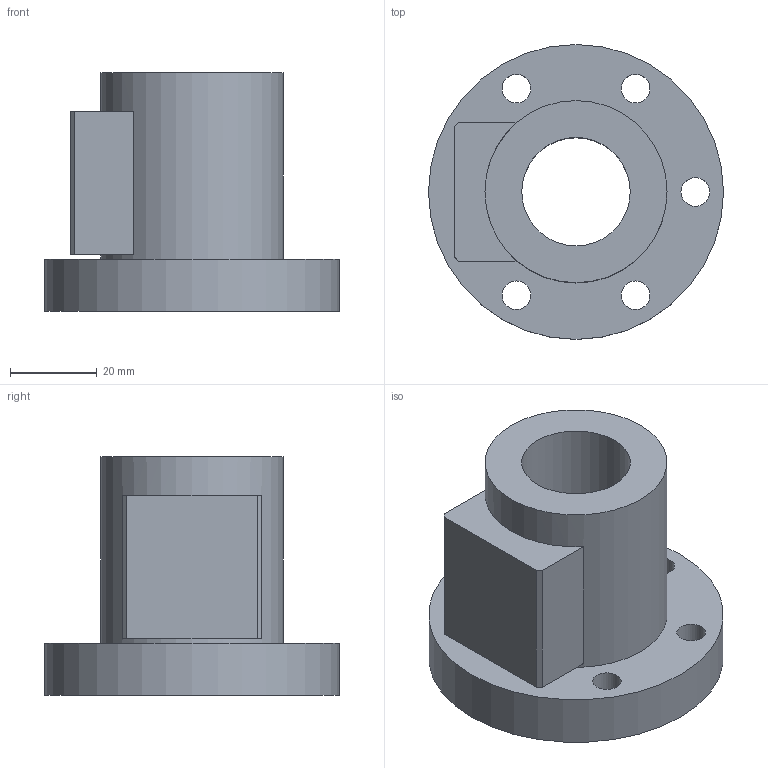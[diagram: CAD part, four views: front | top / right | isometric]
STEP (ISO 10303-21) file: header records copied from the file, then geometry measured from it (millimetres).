
FILE_DESCRIPTION(/* description */ (''),/* implementation_level */ '2;1');
FILE_NAME(/* name */ '25-6C1',/* time_stamp */ '2006-06-16T09:32:09+08:00',/* author */ (''),/* organization */ (''),/* preprocessor_version */ 'ST-DEVELOPER v9',/* originating_system */ 'UGS - NX 4.0',/* authorisation */ '');
FILE_SCHEMA (('CONFIG_CONTROL_DESIGN'));
Length unit declared in the file: millimetre
Products named in the file (1): 25-6C1
Bounding box: 68 x 68 x 55 mm (x, y, z)
Volume: 81873.6 mm3; surface area: 21547.5 mm2
Topology: 1 solids, 1 shells, 28 faces, 61 edges, 42 vertices
Faces by surface type: plane 15, cylinder 13
Full cylindrical faces by diameter (mm): 6.6 x5, 11 x5, 25 x1, 42 x1, 68 x1
Entity records: 794 total; most frequent: DIRECTION 130, CARTESIAN_POINT 111, ORIENTED_EDGE 88, EDGE_LOOP 60, AXIS2_PLACEMENT_3D 57, FACE_BOUND 45, EDGE_CURVE 44, VERTEX_POINT 38
